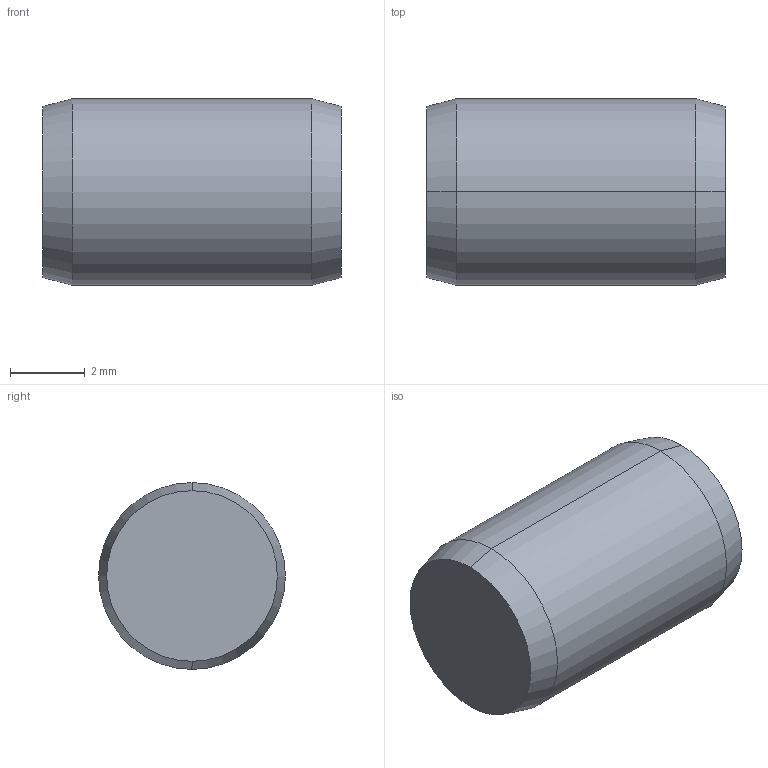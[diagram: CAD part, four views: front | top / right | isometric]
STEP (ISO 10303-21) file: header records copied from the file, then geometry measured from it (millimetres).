
FILE_DESCRIPTION (( 'STEP AP203' ), '1' );
FILE_NAME ('P1206.050-008 .step', '2017-06-14T08:13:56', ( 'User' ), ( '' ), 'SwSTEP 2.0', 'SolidWorks 2009', '' );
FILE_SCHEMA (( 'CONFIG_CONTROL_DESIGN' ));
Length unit declared in the file: millimetre
Products named in the file (1): P1206.050-008 
Bounding box: 8 x 5 x 5 mm (x, y, z)
Volume: 154.5 mm3; surface area: 158.3 mm2
Topology: 1 solids, 1 shells, 8 faces, 14 edges, 8 vertices
Faces by surface type: cone 4, cylinder 2, plane 2
Entity records: 271 total; most frequent: DIRECTION 40, CARTESIAN_POINT 31, ORIENTED_EDGE 28, AXIS2_PLACEMENT_3D 17, EDGE_CURVE 14, CIRCLE 8, FACE_OUTER_BOUND 8, PERSON_AND_ORGANIZATION 8
